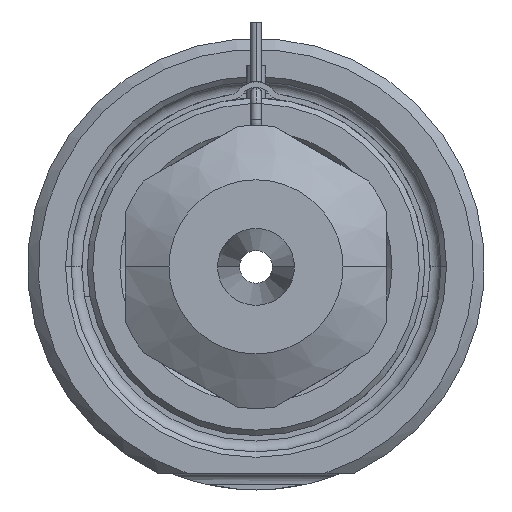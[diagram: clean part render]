
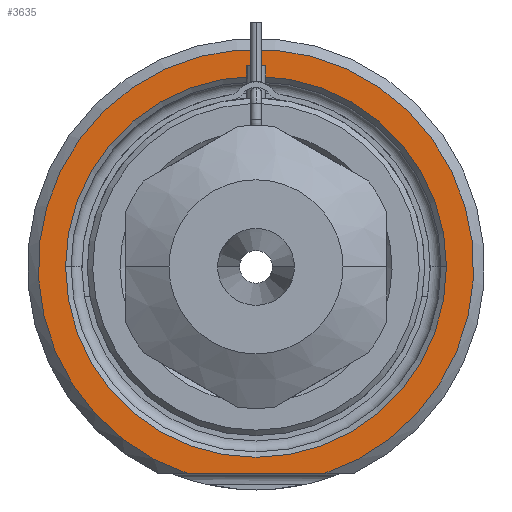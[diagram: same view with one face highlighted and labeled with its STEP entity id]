
A CAD part, front view. The second image highlights one B-rep face of the part: STEP entity #3635.
In plain terms, the highlighted planar face has unit normal (0, -1, 0).
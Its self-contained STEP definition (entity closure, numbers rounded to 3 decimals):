
#698=DIRECTION('',(1.,0.,0.));
#699=VECTOR('',#698,12.49);
#700=CARTESIAN_POINT('',(-6.245,0.,-19.));
#701=LINE('',#700,#699);
#702=CARTESIAN_POINT('',(0.,0.,0.));
#703=DIRECTION('',(0.,1.,0.));
#704=DIRECTION('',(-1.,0.,0.));
#705=AXIS2_PLACEMENT_3D('',#702,#703,#704);
#707=CARTESIAN_POINT('',(0.,0.,0.));
#708=DIRECTION('',(0.,1.,0.));
#709=DIRECTION('',(1.,0.,0.));
#710=AXIS2_PLACEMENT_3D('',#707,#708,#709);
#816=CARTESIAN_POINT('',(0.,0.,0.));
#817=DIRECTION('',(0.,-1.,0.));
#818=DIRECTION('',(0.312,0.,-0.95));
#819=AXIS2_PLACEMENT_3D('',#816,#817,#818);
#2454=CARTESIAN_POINT('',(-17.5,0.,0.));
#2455=CARTESIAN_POINT('',(17.5,0.,0.));
#2456=VERTEX_POINT('',#2454);
#2457=VERTEX_POINT('',#2455);
#2498=CARTESIAN_POINT('',(-6.245,0.,-19.));
#2499=CARTESIAN_POINT('',(6.245,0.,-19.));
#2500=VERTEX_POINT('',#2498);
#2501=VERTEX_POINT('',#2499);
#3619=CARTESIAN_POINT('',(0.,0.,0.));
#3620=DIRECTION('',(0.,-1.,0.));
#3621=DIRECTION('',(1.,0.,0.));
#3622=AXIS2_PLACEMENT_3D('',#3619,#3620,#3621);
#3623=PLANE('',#3622);
#3625=ORIENTED_EDGE('',*,*,#3624,.F.);
#3627=ORIENTED_EDGE('',*,*,#3626,.F.);
#3628=EDGE_LOOP('',(#3625,#3627));
#3629=FACE_OUTER_BOUND('',#3628,.F.);
#3630=ORIENTED_EDGE('',*,*,#3609,.F.);
#3632=ORIENTED_EDGE('',*,*,#3631,.F.);
#3633=EDGE_LOOP('',(#3630,#3632));
#3634=FACE_BOUND('',#3633,.F.);
#3635=ADVANCED_FACE('',(#3629,#3634),#3623,.T.);
#706=CIRCLE('',#705,17.5);
#711=CIRCLE('',#710,17.5);
#820=CIRCLE('',#819,20.);
#3609=EDGE_CURVE('',#2456,#2457,#706,.T.);
#3624=EDGE_CURVE('',#2500,#2501,#701,.T.);
#3626=EDGE_CURVE('',#2501,#2500,#820,.T.);
#3631=EDGE_CURVE('',#2457,#2456,#711,.T.);
